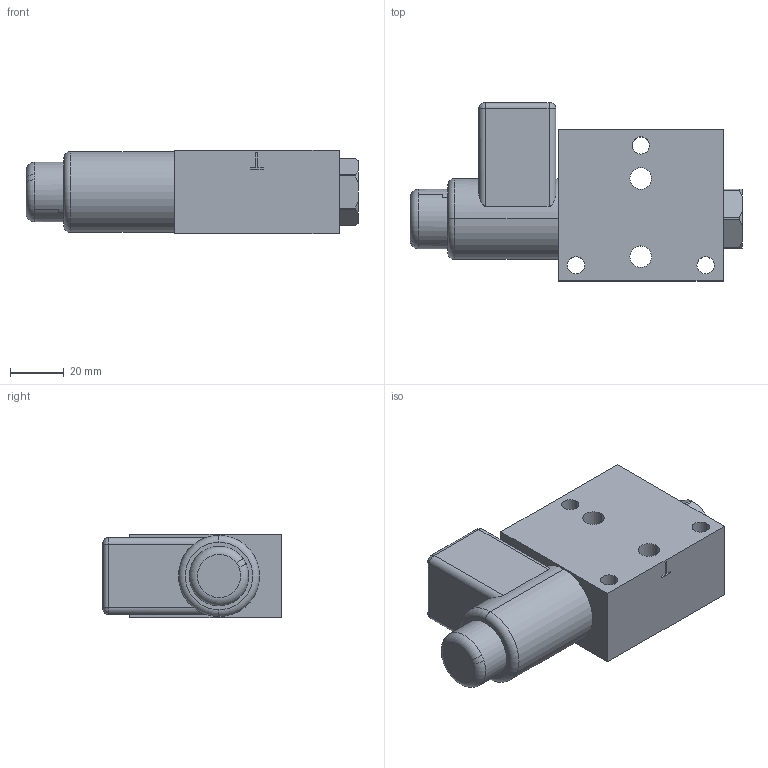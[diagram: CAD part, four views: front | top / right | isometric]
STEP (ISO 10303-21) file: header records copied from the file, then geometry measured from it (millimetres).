
FILE_DESCRIPTION((''),'2;1');
FILE_NAME('RPEK1_03G2_A','2011-03-14T',('tvatras'),(''),'PRO/ENGINEER BY PARAMETRIC TECHNOLOGY CORPORATION, 2010180','PRO/ENGINEER BY PARAMETRIC TECHNOLOGY CORPORATION, 2010180','');
FILE_SCHEMA(('CONFIG_CONTROL_DESIGN'));
Length unit declared in the file: millimetre
Products named in the file (1): RPEK1_03G2_A
Bounding box: 123 x 66 x 31 mm (x, y, z)
Volume: 156780.3 mm3; surface area: 30337.9 mm2
Topology: 1 solids, 6 shells, 199 faces, 530 edges, 353 vertices
Faces by surface type: plane 123, cylinder 52, cone 16, torus 4, bspline 4
Entity records: 6420 total; most frequent: CARTESIAN_POINT 1346, DIRECTION 1032, ORIENTED_EDGE 1032, EDGE_CURVE 522, VECTOR 360, LINE 360, VERTEX_POINT 349, AXIS2_PLACEMENT_3D 336
